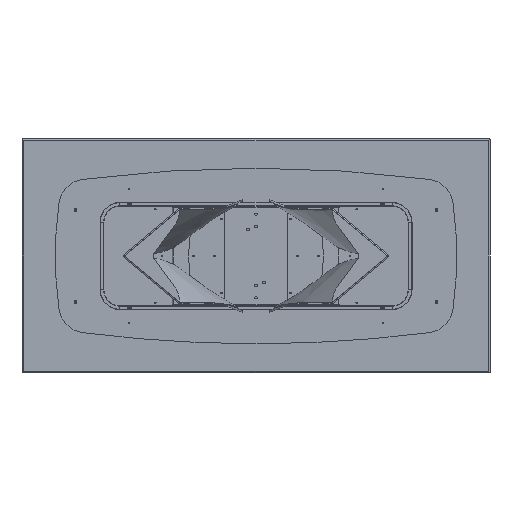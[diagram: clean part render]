
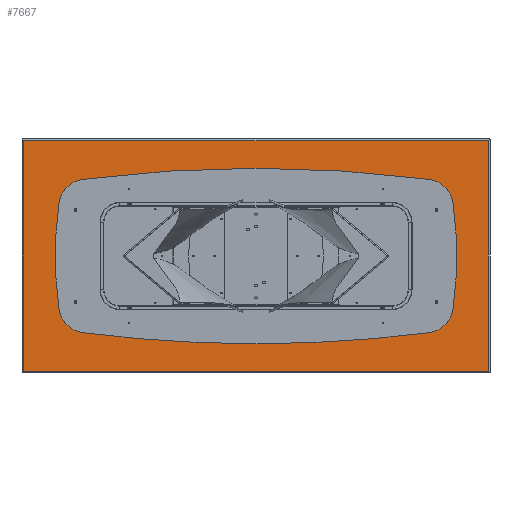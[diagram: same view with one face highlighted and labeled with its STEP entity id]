
A CAD part, front view. The second image highlights one B-rep face of the part: STEP entity #7667.
In plain terms, the highlighted planar face has unit normal (0, -1, 0).
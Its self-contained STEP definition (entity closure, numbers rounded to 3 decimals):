
#183 = EDGE_CURVE ( 'NONE', #15678, #2781, #6757, .T. ) ;
#211 = DIRECTION ( 'NONE',  ( 0., 0., -1. ) ) ;
#239 = ORIENTED_EDGE ( 'NONE', *, *, #16271, .T. ) ;
#266 = CARTESIAN_POINT ( 'NONE',  ( -1190., 0., 590. ) ) ;
#293 = DIRECTION ( 'NONE',  ( 0., 0., -1. ) ) ;
#483 = CIRCLE ( 'NONE', #13286, 2.5 ) ;
#533 = VERTEX_POINT ( 'NONE', #6687 ) ;
#696 = EDGE_LOOP ( 'NONE', ( #23589, #1861 ) ) ;
#992 = DIRECTION ( 'NONE',  ( 0., -1., 0. ) ) ;
#1000 = CARTESIAN_POINT ( 'NONE',  ( -1190., 0., 0. ) ) ;
#1134 = LINE ( 'NONE', #11426, #22703 ) ;
#1188 = CARTESIAN_POINT ( 'NONE',  ( 1190., 0., 590. ) ) ;
#1842 = EDGE_CURVE ( 'NONE', #2781, #14603, #1134, .T. ) ;
#1861 = ORIENTED_EDGE ( 'NONE', *, *, #22184, .F. ) ;
#2207 = CIRCLE ( 'NONE', #11154, 2.5 ) ;
#2236 = DIRECTION ( 'NONE',  ( 0., -1., 0. ) ) ;
#2275 = CARTESIAN_POINT ( 'NONE',  ( 0., 0., 0. ) ) ;
#2345 = DIRECTION ( 'NONE',  ( 0., -1., 0. ) ) ;
#2444 = VERTEX_POINT ( 'NONE', #24414 ) ;
#2468 = CARTESIAN_POINT ( 'NONE',  ( 925., 0., -232.5 ) ) ;
#2588 = VERTEX_POINT ( 'NONE', #26006 ) ;
#2739 = AXIS2_PLACEMENT_3D ( 'NONE', #22864, #992, #6614 ) ;
#2781 = VERTEX_POINT ( 'NONE', #4985 ) ;
#3462 = CIRCLE ( 'NONE', #8188, 2.5 ) ;
#3988 = DIRECTION ( 'NONE',  ( 0., -1., 0. ) ) ;
#4487 = VERTEX_POINT ( 'NONE', #14574 ) ;
#4600 = LINE ( 'NONE', #14757, #11507 ) ;
#4985 = CARTESIAN_POINT ( 'NONE',  ( -1190., 0., -590. ) ) ;
#5397 = ORIENTED_EDGE ( 'NONE', *, *, #7302, .F. ) ;
#5501 = DIRECTION ( 'NONE',  ( 0., 0., -1. ) ) ;
#6294 = PLANE ( 'NONE',  #10484 ) ;
#6614 = DIRECTION ( 'NONE',  ( 0., 0., -1. ) ) ;
#6687 = CARTESIAN_POINT ( 'NONE',  ( 925., 0., -237.5 ) ) ;
#6757 = LINE ( 'NONE', #1000, #11182 ) ;
#7002 = LINE ( 'NONE', #14891, #8440 ) ;
#7210 = CIRCLE ( 'NONE', #11913, 2.5 ) ;
#7302 = EDGE_CURVE ( 'NONE', #12161, #2444, #14258, .T. ) ;
#7667 = ADVANCED_FACE ( 'NONE', ( #24536, #12311, #10294, #18410, #8302 ), #6294, .F. ) ;
#8130 = EDGE_CURVE ( 'NONE', #19127, #533, #21645, .T. ) ;
#8139 = DIRECTION ( 'NONE',  ( 0., 0., -1. ) ) ;
#8188 = AXIS2_PLACEMENT_3D ( 'NONE', #24022, #19890, #17502 ) ;
#8275 = ORIENTED_EDGE ( 'NONE', *, *, #19023, .T. ) ;
#8302 = FACE_OUTER_BOUND ( 'NONE', #16522, .T. ) ;
#8440 = VECTOR ( 'NONE', #20999, 1000. ) ;
#8670 = EDGE_CURVE ( 'NONE', #533, #19127, #2207, .T. ) ;
#8820 = DIRECTION ( 'NONE',  ( 0., 1., 0. ) ) ;
#9032 = ORIENTED_EDGE ( 'NONE', *, *, #23295, .F. ) ;
#9229 = DIRECTION ( 'NONE',  ( 0., 0., -1. ) ) ;
#9618 = CARTESIAN_POINT ( 'NONE',  ( -925., 0., 235. ) ) ;
#9677 = DIRECTION ( 'NONE',  ( 1., 0., 0. ) ) ;
#10294 = FACE_BOUND ( 'NONE', #696, .T. ) ;
#10390 = DIRECTION ( 'NONE',  ( 0., 0., -1. ) ) ;
#10484 = AXIS2_PLACEMENT_3D ( 'NONE', #2275, #8820, #12968 ) ;
#10620 = EDGE_CURVE ( 'NONE', #2444, #12161, #483, .T. ) ;
#11014 = CARTESIAN_POINT ( 'NONE',  ( 1190., 0., -590. ) ) ;
#11154 = AXIS2_PLACEMENT_3D ( 'NONE', #24602, #2345, #211 ) ;
#11182 = VECTOR ( 'NONE', #15152, 1000. ) ;
#11426 = CARTESIAN_POINT ( 'NONE',  ( 0., 0., -590. ) ) ;
#11497 = DIRECTION ( 'NONE',  ( 0., -1., 0. ) ) ;
#11507 = VECTOR ( 'NONE', #12760, 1000. ) ;
#11796 = CARTESIAN_POINT ( 'NONE',  ( -925., 0., -235. ) ) ;
#11913 = AXIS2_PLACEMENT_3D ( 'NONE', #16376, #2236, #10390 ) ;
#12161 = VERTEX_POINT ( 'NONE', #14061 ) ;
#12311 = FACE_BOUND ( 'NONE', #18263, .T. ) ;
#12760 = DIRECTION ( 'NONE',  ( -1., 0., 0. ) ) ;
#12968 = DIRECTION ( 'NONE',  ( 0., 0., 1. ) ) ;
#13286 = AXIS2_PLACEMENT_3D ( 'NONE', #20562, #22560, #293 ) ;
#14061 = CARTESIAN_POINT ( 'NONE',  ( 925., 0., 237.5 ) ) ;
#14258 = CIRCLE ( 'NONE', #2739, 2.5 ) ;
#14444 = AXIS2_PLACEMENT_3D ( 'NONE', #14666, #3988, #8139 ) ;
#14574 = CARTESIAN_POINT ( 'NONE',  ( -925., 0., 232.5 ) ) ;
#14603 = VERTEX_POINT ( 'NONE', #11014 ) ;
#14666 = CARTESIAN_POINT ( 'NONE',  ( 925., 0., -235. ) ) ;
#14757 = CARTESIAN_POINT ( 'NONE',  ( 0., 0., 590. ) ) ;
#14891 = CARTESIAN_POINT ( 'NONE',  ( 1190., 0., 0. ) ) ;
#15152 = DIRECTION ( 'NONE',  ( 0., 0., -1. ) ) ;
#15191 = CARTESIAN_POINT ( 'NONE',  ( -925., 0., -232.5 ) ) ;
#15678 = VERTEX_POINT ( 'NONE', #266 ) ;
#15876 = ORIENTED_EDGE ( 'NONE', *, *, #23285, .F. ) ;
#16257 = CIRCLE ( 'NONE', #17090, 2.5 ) ;
#16271 = EDGE_CURVE ( 'NONE', #14603, #19712, #7002, .T. ) ;
#16376 = CARTESIAN_POINT ( 'NONE',  ( -925., 0., 235. ) ) ;
#16522 = EDGE_LOOP ( 'NONE', ( #23065, #22081, #239, #8275 ) ) ;
#17090 = AXIS2_PLACEMENT_3D ( 'NONE', #11796, #23759, #5501 ) ;
#17269 = EDGE_LOOP ( 'NONE', ( #22207, #24115 ) ) ;
#17502 = DIRECTION ( 'NONE',  ( 0., 0., -1. ) ) ;
#18263 = EDGE_LOOP ( 'NONE', ( #15876, #9032 ) ) ;
#18403 = EDGE_CURVE ( 'NONE', #4487, #21176, #7210, .T. ) ;
#18410 = FACE_BOUND ( 'NONE', #20502, .T. ) ;
#18758 = CIRCLE ( 'NONE', #22168, 2.5 ) ;
#19023 = EDGE_CURVE ( 'NONE', #19712, #15678, #4600, .T. ) ;
#19127 = VERTEX_POINT ( 'NONE', #2468 ) ;
#19712 = VERTEX_POINT ( 'NONE', #1188 ) ;
#19890 = DIRECTION ( 'NONE',  ( 0., -1., 0. ) ) ;
#20502 = EDGE_LOOP ( 'NONE', ( #25124, #5397 ) ) ;
#20510 = VERTEX_POINT ( 'NONE', #15191 ) ;
#20562 = CARTESIAN_POINT ( 'NONE',  ( 925., 0., 235. ) ) ;
#20999 = DIRECTION ( 'NONE',  ( 0., 0., 1. ) ) ;
#21176 = VERTEX_POINT ( 'NONE', #23653 ) ;
#21645 = CIRCLE ( 'NONE', #14444, 2.5 ) ;
#22081 = ORIENTED_EDGE ( 'NONE', *, *, #1842, .T. ) ;
#22168 = AXIS2_PLACEMENT_3D ( 'NONE', #9618, #11497, #9229 ) ;
#22184 = EDGE_CURVE ( 'NONE', #21176, #4487, #18758, .T. ) ;
#22207 = ORIENTED_EDGE ( 'NONE', *, *, #8670, .F. ) ;
#22560 = DIRECTION ( 'NONE',  ( 0., -1., 0. ) ) ;
#22703 = VECTOR ( 'NONE', #9677, 1000. ) ;
#22864 = CARTESIAN_POINT ( 'NONE',  ( 925., 0., 235. ) ) ;
#23065 = ORIENTED_EDGE ( 'NONE', *, *, #183, .T. ) ;
#23285 = EDGE_CURVE ( 'NONE', #2588, #20510, #16257, .T. ) ;
#23295 = EDGE_CURVE ( 'NONE', #20510, #2588, #3462, .T. ) ;
#23589 = ORIENTED_EDGE ( 'NONE', *, *, #18403, .F. ) ;
#23653 = CARTESIAN_POINT ( 'NONE',  ( -925., 0., 237.5 ) ) ;
#23759 = DIRECTION ( 'NONE',  ( 0., -1., 0. ) ) ;
#24022 = CARTESIAN_POINT ( 'NONE',  ( -925., 0., -235. ) ) ;
#24115 = ORIENTED_EDGE ( 'NONE', *, *, #8130, .F. ) ;
#24414 = CARTESIAN_POINT ( 'NONE',  ( 925., 0., 232.5 ) ) ;
#24536 = FACE_BOUND ( 'NONE', #17269, .T. ) ;
#24602 = CARTESIAN_POINT ( 'NONE',  ( 925., 0., -235. ) ) ;
#25124 = ORIENTED_EDGE ( 'NONE', *, *, #10620, .F. ) ;
#26006 = CARTESIAN_POINT ( 'NONE',  ( -925., 0., -237.5 ) ) ;
